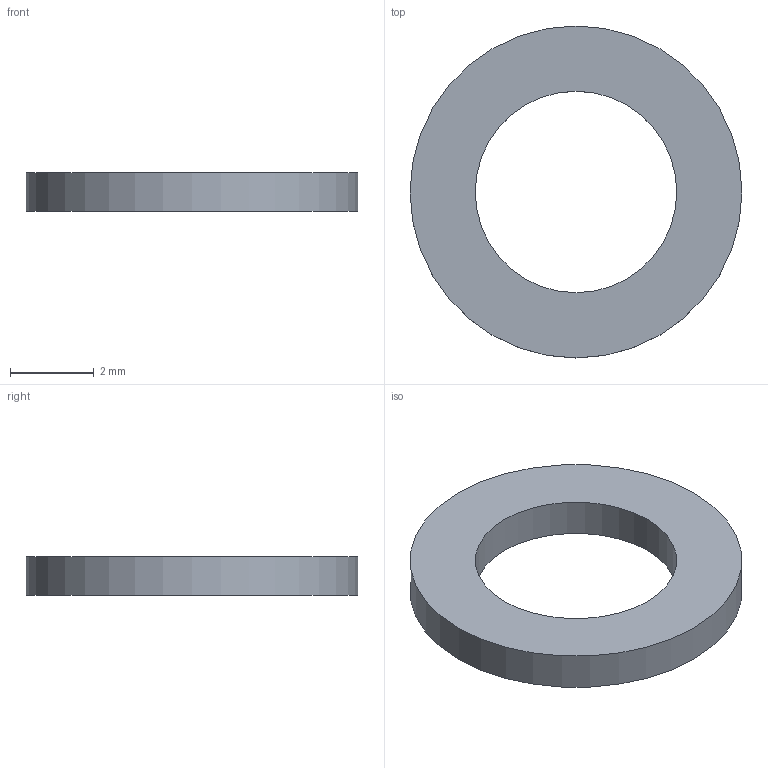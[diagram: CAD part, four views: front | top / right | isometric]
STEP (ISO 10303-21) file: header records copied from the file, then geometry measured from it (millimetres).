
FILE_DESCRIPTION (( 'STEP AP214' ), '1' );
FILE_NAME ('33145r1.STEP', '2011-07-11T14:17:19', ( 'Vicor User' ), ( 'Microsoft' ), 'SwSTEP 2.0', 'SolidWorks 2010', '' );
FILE_SCHEMA (( 'AUTOMOTIVE_DESIGN' ));
Length unit declared in the file: inch
Products named in the file (1): 33145r1
Bounding box: 7.95 x 7.95 x 0.91 mm (x, y, z)
Volume: 28.7 mm3; surface area: 99.4 mm2
Topology: 1 solids, 1 shells, 4 faces, 6 edges, 4 vertices
Faces by surface type: plane 2, cylinder 2
Full cylindrical faces by diameter (mm): 4.826 x1, 7.95 x1
Entity records: 128 total; most frequent: DIRECTION 18, CARTESIAN_POINT 13, AXIS2_PLACEMENT_3D 9, EDGE_LOOP 8, ORIENTED_EDGE 8, FACE_OUTER_BOUND 6, EDGE_CURVE 4, CIRCLE 4
